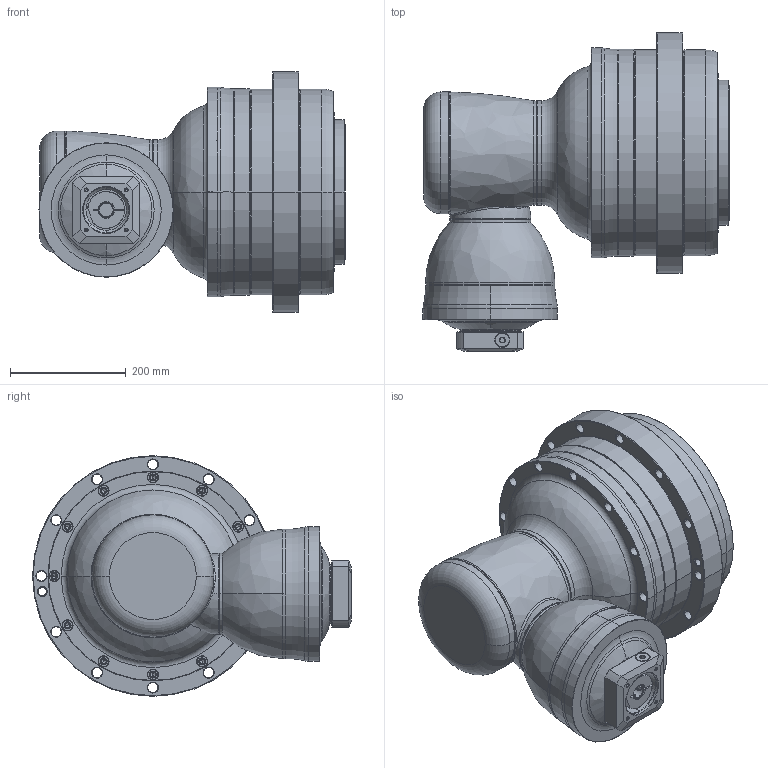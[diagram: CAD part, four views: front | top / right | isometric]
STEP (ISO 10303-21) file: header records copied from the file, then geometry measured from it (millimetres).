
FILE_DESCRIPTION((''),'2;1');
FILE_NAME('AHK355_4ST_24-P0409500101_ASM','2016-12-08T',('d01943'),(''),'PRO/ENGINEER BY PARAMETRIC TECHNOLOGY CORPORATION, 2008410','PRO/ENGINEER BY PARAMETRIC TECHNOLOGY CORPORATION, 2008410','');
FILE_SCHEMA(('CONFIG_CONTROL_DESIGN'));
Length unit declared in the file: millimetre
Products named in the file (12): P1008600002; P1821100001; P0276100003; P0357100003; P1315600001; P1007600001; P1317600001; P0409500101; P0503500010; P0912500201; 21711418017; AHK355_4ST_24-P0409500101_ASM
Assembly tree (11 placements, depth 2):
  AHK355_4ST_24-P0409500101_ASM
    P1008600002
    P1821100001
    P0276100003
    P0357100003
    P1315600001
    P1007600001
    P1317600001
    P0409500101
    P0503500010
    P0912500201
    21711418017
Bounding box: 528 x 550 x 415 mm (x, y, z)
Volume: 36457725.1 mm3; surface area: 1744666.1 mm2
Topology: 12 solids, 12 shells, 1025 faces, 2295 edges, 1315 vertices
Faces by surface type: cone 368, cylinder 368, torus 126, plane 124, bspline 37, sphere 2
Entity records: 34744 total; most frequent: CARTESIAN_POINT 11408, DIRECTION 5378, ORIENTED_EDGE 4414, AXIS2_PLACEMENT_3D 2288, EDGE_CURVE 2207, VERTEX_POINT 1315, CIRCLE 1277, EDGE_LOOP 1234
